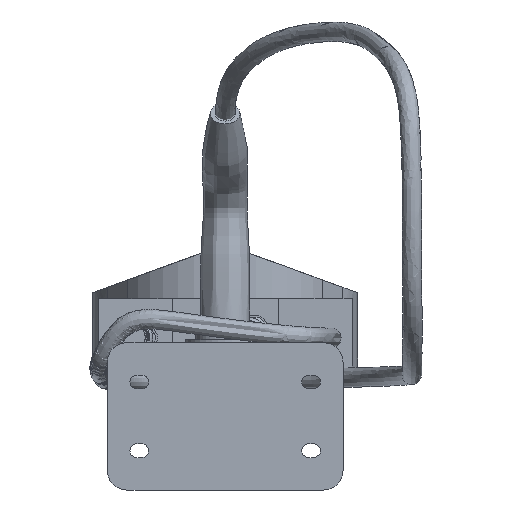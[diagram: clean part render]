
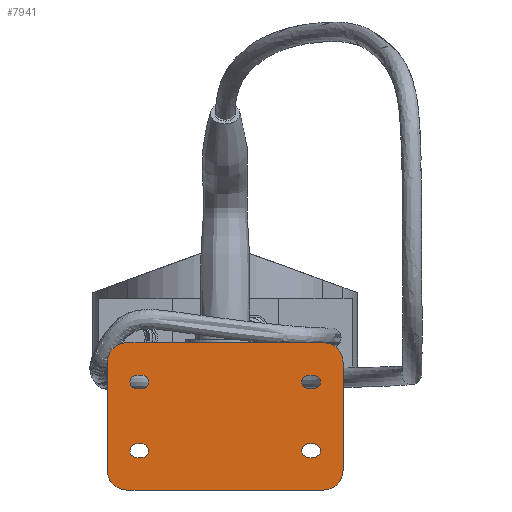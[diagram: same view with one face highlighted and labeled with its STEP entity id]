
A CAD part, front view. The second image highlights one B-rep face of the part: STEP entity #7941.
In plain terms, the highlighted planar face has unit normal (0, -1, 0).
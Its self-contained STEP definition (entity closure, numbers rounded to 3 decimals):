
#408=FACE_BOUND('',#1245,.T.);
#409=FACE_BOUND('',#1246,.T.);
#410=FACE_BOUND('',#1247,.T.);
#411=FACE_BOUND('',#1248,.T.);
#478=PLANE('',#8574);
#789=FACE_OUTER_BOUND('',#1244,.T.);
#1244=EDGE_LOOP('',(#5603,#5604,#5605,#5606,#5607,#5608,#5609,#5610));
#1245=EDGE_LOOP('',(#5611,#5612,#5613,#5614));
#1246=EDGE_LOOP('',(#5615,#5616,#5617,#5618));
#1247=EDGE_LOOP('',(#5619,#5620,#5621,#5622));
#1248=EDGE_LOOP('',(#5623,#5624,#5625,#5626));
#1736=LINE('',#11203,#2475);
#1740=LINE('',#11213,#2479);
#1745=LINE('',#11228,#2484);
#1748=LINE('',#11237,#2487);
#1751=LINE('',#11245,#2490);
#1755=LINE('',#11257,#2494);
#1759=LINE('',#11269,#2498);
#1764=LINE('',#11282,#2503);
#1779=LINE('',#11337,#2518);
#1782=LINE('',#11343,#2521);
#1783=LINE('',#11347,#2522);
#1784=LINE('',#11351,#2523);
#2475=VECTOR('',#9213,10.);
#2479=VECTOR('',#9225,10.);
#2484=VECTOR('',#9238,10.);
#2487=VECTOR('',#9249,10.);
#2490=VECTOR('',#9254,10.);
#2494=VECTOR('',#9266,10.);
#2498=VECTOR('',#9278,10.);
#2503=VECTOR('',#9291,10.);
#2518=VECTOR('',#9352,10.);
#2521=VECTOR('',#9357,10.);
#2522=VECTOR('',#9360,10.);
#2523=VECTOR('',#9363,10.);
#3189=CIRCLE('',#8524,7.);
#3191=CIRCLE('',#8528,7.);
#3193=CIRCLE('',#8532,7.);
#3195=CIRCLE('',#8536,7.);
#3197=CIRCLE('',#8541,7.);
#3199=CIRCLE('',#8545,7.);
#3201=CIRCLE('',#8549,7.);
#3203=CIRCLE('',#8553,7.);
#3213=CIRCLE('',#8572,20.);
#3214=CIRCLE('',#8575,20.);
#3215=CIRCLE('',#8576,20.);
#3216=CIRCLE('',#8577,20.);
#3435=VERTEX_POINT('',#11194);
#3436=VERTEX_POINT('',#11196);
#3438=VERTEX_POINT('',#11202);
#3440=VERTEX_POINT('',#11208);
#3443=VERTEX_POINT('',#11218);
#3444=VERTEX_POINT('',#11220);
#3446=VERTEX_POINT('',#11226);
#3448=VERTEX_POINT('',#11232);
#3451=VERTEX_POINT('',#11242);
#3452=VERTEX_POINT('',#11244);
#3454=VERTEX_POINT('',#11250);
#3456=VERTEX_POINT('',#11256);
#3459=VERTEX_POINT('',#11266);
#3460=VERTEX_POINT('',#11268);
#3462=VERTEX_POINT('',#11274);
#3464=VERTEX_POINT('',#11280);
#3479=VERTEX_POINT('',#11330);
#3480=VERTEX_POINT('',#11332);
#3481=VERTEX_POINT('',#11336);
#3483=VERTEX_POINT('',#11342);
#3484=VERTEX_POINT('',#11344);
#3485=VERTEX_POINT('',#11346);
#3486=VERTEX_POINT('',#11348);
#3487=VERTEX_POINT('',#11350);
#4252=EDGE_CURVE('',#3436,#3435,#3189,.T.);
#4255=EDGE_CURVE('',#3438,#3436,#1736,.T.);
#4258=EDGE_CURVE('',#3440,#3438,#3191,.T.);
#4261=EDGE_CURVE('',#3435,#3440,#1740,.T.);
#4264=EDGE_CURVE('',#3444,#3443,#3193,.T.);
#4268=EDGE_CURVE('',#3443,#3446,#1745,.T.);
#4271=EDGE_CURVE('',#3446,#3448,#3195,.T.);
#4273=EDGE_CURVE('',#3448,#3444,#1748,.T.);
#4276=EDGE_CURVE('',#3452,#3451,#1751,.T.);
#4279=EDGE_CURVE('',#3454,#3452,#3197,.T.);
#4282=EDGE_CURVE('',#3456,#3454,#1755,.T.);
#4285=EDGE_CURVE('',#3451,#3456,#3199,.T.);
#4288=EDGE_CURVE('',#3460,#3459,#1759,.T.);
#4292=EDGE_CURVE('',#3459,#3462,#3201,.T.);
#4295=EDGE_CURVE('',#3462,#3464,#1764,.T.);
#4297=EDGE_CURVE('',#3464,#3460,#3203,.T.);
#4320=EDGE_CURVE('',#3479,#3480,#3213,.T.);
#4322=EDGE_CURVE('',#3480,#3481,#1779,.T.);
#4325=EDGE_CURVE('',#3483,#3479,#1782,.T.);
#4326=EDGE_CURVE('',#3484,#3483,#3214,.T.);
#4327=EDGE_CURVE('',#3485,#3484,#1783,.T.);
#4328=EDGE_CURVE('',#3486,#3485,#3215,.T.);
#4329=EDGE_CURVE('',#3487,#3486,#1784,.T.);
#4330=EDGE_CURVE('',#3481,#3487,#3216,.T.);
#5603=ORIENTED_EDGE('',*,*,#4320,.F.);
#5604=ORIENTED_EDGE('',*,*,#4325,.F.);
#5605=ORIENTED_EDGE('',*,*,#4326,.F.);
#5606=ORIENTED_EDGE('',*,*,#4327,.F.);
#5607=ORIENTED_EDGE('',*,*,#4328,.F.);
#5608=ORIENTED_EDGE('',*,*,#4329,.F.);
#5609=ORIENTED_EDGE('',*,*,#4330,.F.);
#5610=ORIENTED_EDGE('',*,*,#4322,.F.);
#5611=ORIENTED_EDGE('',*,*,#4252,.T.);
#5612=ORIENTED_EDGE('',*,*,#4261,.T.);
#5613=ORIENTED_EDGE('',*,*,#4258,.T.);
#5614=ORIENTED_EDGE('',*,*,#4255,.T.);
#5615=ORIENTED_EDGE('',*,*,#4264,.T.);
#5616=ORIENTED_EDGE('',*,*,#4268,.T.);
#5617=ORIENTED_EDGE('',*,*,#4271,.T.);
#5618=ORIENTED_EDGE('',*,*,#4273,.T.);
#5619=ORIENTED_EDGE('',*,*,#4276,.T.);
#5620=ORIENTED_EDGE('',*,*,#4285,.T.);
#5621=ORIENTED_EDGE('',*,*,#4282,.T.);
#5622=ORIENTED_EDGE('',*,*,#4279,.T.);
#5623=ORIENTED_EDGE('',*,*,#4288,.T.);
#5624=ORIENTED_EDGE('',*,*,#4292,.T.);
#5625=ORIENTED_EDGE('',*,*,#4295,.T.);
#5626=ORIENTED_EDGE('',*,*,#4297,.T.);
#7941=ADVANCED_FACE('',(#789,#408,#409,#410,#411),#478,.F.);
#8524=AXIS2_PLACEMENT_3D('',#11197,#9207,#9208);
#8528=AXIS2_PLACEMENT_3D('',#11209,#9219,#9220);
#8532=AXIS2_PLACEMENT_3D('',#11221,#9231,#9232);
#8536=AXIS2_PLACEMENT_3D('',#11234,#9244,#9245);
#8541=AXIS2_PLACEMENT_3D('',#11251,#9260,#9261);
#8545=AXIS2_PLACEMENT_3D('',#11261,#9272,#9273);
#8549=AXIS2_PLACEMENT_3D('',#11276,#9285,#9286);
#8553=AXIS2_PLACEMENT_3D('',#11285,#9296,#9297);
#8572=AXIS2_PLACEMENT_3D('',#11333,#9347,#9348);
#8574=AXIS2_PLACEMENT_3D('',#11341,#9355,#9356);
#8575=AXIS2_PLACEMENT_3D('',#11345,#9358,#9359);
#8576=AXIS2_PLACEMENT_3D('',#11349,#9361,#9362);
#8577=AXIS2_PLACEMENT_3D('',#11352,#9364,#9365);
#9207=DIRECTION('center_axis',(0.,1.,0.));
#9208=DIRECTION('ref_axis',(0.,0.,-1.));
#9213=DIRECTION('',(1.,0.,0.));
#9219=DIRECTION('center_axis',(0.,1.,0.));
#9220=DIRECTION('ref_axis',(0.,0.,1.));
#9225=DIRECTION('',(-1.,0.,0.));
#9231=DIRECTION('center_axis',(0.,1.,0.));
#9232=DIRECTION('ref_axis',(0.,0.,-1.));
#9238=DIRECTION('',(-1.,0.,0.));
#9244=DIRECTION('center_axis',(0.,1.,0.));
#9245=DIRECTION('ref_axis',(0.,0.,1.));
#9249=DIRECTION('',(1.,0.,0.));
#9254=DIRECTION('',(-1.,0.,0.));
#9260=DIRECTION('center_axis',(0.,1.,0.));
#9261=DIRECTION('ref_axis',(0.,0.,-1.));
#9266=DIRECTION('',(1.,0.,0.));
#9272=DIRECTION('center_axis',(0.,1.,0.));
#9273=DIRECTION('ref_axis',(0.,0.,1.));
#9278=DIRECTION('',(1.,0.,0.));
#9285=DIRECTION('center_axis',(0.,1.,0.));
#9286=DIRECTION('ref_axis',(0.,0.,-1.));
#9291=DIRECTION('',(-1.,0.,0.));
#9296=DIRECTION('center_axis',(0.,1.,0.));
#9297=DIRECTION('ref_axis',(0.,0.,1.));
#9347=DIRECTION('center_axis',(0.,1.,0.));
#9348=DIRECTION('ref_axis',(-0.707,0.,-0.707));
#9352=DIRECTION('',(0.,0.,1.));
#9355=DIRECTION('center_axis',(0.,1.,0.));
#9356=DIRECTION('ref_axis',(0.,0.,1.));
#9357=DIRECTION('',(-1.,0.,0.));
#9358=DIRECTION('center_axis',(0.,1.,0.));
#9359=DIRECTION('ref_axis',(0.707,0.,-0.707));
#9360=DIRECTION('',(0.,0.,-1.));
#9361=DIRECTION('center_axis',(0.,1.,0.));
#9362=DIRECTION('ref_axis',(0.707,0.,0.707));
#9363=DIRECTION('',(1.,0.,0.));
#9364=DIRECTION('center_axis',(0.,1.,0.));
#9365=DIRECTION('ref_axis',(-0.707,0.,0.707));
#11194=CARTESIAN_POINT('',(90.,0.,-42.));
#11196=CARTESIAN_POINT('',(90.,0.,-28.));
#11197=CARTESIAN_POINT('Origin',(90.,0.,-35.));
#11202=CARTESIAN_POINT('',(85.,0.,-28.));
#11203=CARTESIAN_POINT('',(42.5,0.,-28.));
#11208=CARTESIAN_POINT('',(85.,0.,-42.));
#11209=CARTESIAN_POINT('Origin',(85.,0.,-35.));
#11213=CARTESIAN_POINT('',(45.,0.,-42.));
#11218=CARTESIAN_POINT('',(-85.,0.,-42.));
#11220=CARTESIAN_POINT('',(-85.,0.,-28.));
#11221=CARTESIAN_POINT('Origin',(-85.,0.,-35.));
#11226=CARTESIAN_POINT('',(-90.,0.,-42.));
#11228=CARTESIAN_POINT('',(-42.5,0.,-42.));
#11232=CARTESIAN_POINT('',(-90.,0.,-28.));
#11234=CARTESIAN_POINT('Origin',(-90.,0.,-35.));
#11237=CARTESIAN_POINT('',(-45.,0.,-28.));
#11242=CARTESIAN_POINT('',(85.,0.,28.));
#11244=CARTESIAN_POINT('',(90.,0.,28.));
#11245=CARTESIAN_POINT('',(45.,0.,28.));
#11250=CARTESIAN_POINT('',(90.,0.,42.));
#11251=CARTESIAN_POINT('Origin',(90.,0.,35.));
#11256=CARTESIAN_POINT('',(85.,0.,42.));
#11257=CARTESIAN_POINT('',(42.5,0.,42.));
#11261=CARTESIAN_POINT('Origin',(85.,0.,35.));
#11266=CARTESIAN_POINT('',(-85.,0.,42.));
#11268=CARTESIAN_POINT('',(-90.,0.,42.));
#11269=CARTESIAN_POINT('',(-45.,0.,42.));
#11274=CARTESIAN_POINT('',(-85.,0.,28.));
#11276=CARTESIAN_POINT('Origin',(-85.,0.,35.));
#11280=CARTESIAN_POINT('',(-90.,0.,28.));
#11282=CARTESIAN_POINT('',(-42.5,0.,28.));
#11285=CARTESIAN_POINT('Origin',(-90.,0.,35.));
#11330=CARTESIAN_POINT('',(-100.,0.,-75.));
#11332=CARTESIAN_POINT('',(-120.,0.,-55.));
#11333=CARTESIAN_POINT('Origin',(-100.,0.,-55.));
#11336=CARTESIAN_POINT('',(-120.,0.,55.));
#11337=CARTESIAN_POINT('',(-120.,0.,-75.));
#11341=CARTESIAN_POINT('Origin',(0.,0.,0.));
#11342=CARTESIAN_POINT('',(100.,0.,-75.));
#11343=CARTESIAN_POINT('',(120.,0.,-75.));
#11344=CARTESIAN_POINT('',(120.,0.,-55.));
#11345=CARTESIAN_POINT('Origin',(100.,0.,-55.));
#11346=CARTESIAN_POINT('',(120.,0.,55.));
#11347=CARTESIAN_POINT('',(120.,0.,75.));
#11348=CARTESIAN_POINT('',(100.,0.,75.));
#11349=CARTESIAN_POINT('Origin',(100.,0.,55.));
#11350=CARTESIAN_POINT('',(-100.,0.,75.));
#11351=CARTESIAN_POINT('',(-120.,0.,75.));
#11352=CARTESIAN_POINT('Origin',(-100.,0.,55.));
